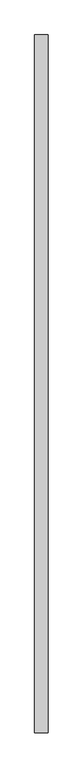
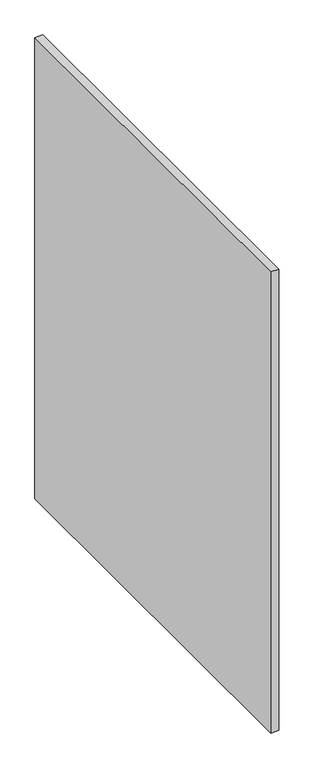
"""IFC4 building model written with IfcOpenShell, lengths in millimetres: furniture geometry, Divisoria_Lateral Fechada : Divisoria_Lateral Fechada_130x180."""

from ifc_helpers import new_model, si_unit, frame, origin, place, context, project, spatial, polyline, outline, extrude, source, transform, mapped, element, save


def furniture_773e04f6(model_context):
    return source(origin(), model_context, "Body", "SweptSolid", [
        extrude(outline(polyline([(59.7003264, -50.0), (29.7003264, -50.0), (29.7003264, 1499.1070406), (59.7003264, 1499.1070406), (59.7003264, -50.0)])), frame((0.0, 0.0, 50.0), z_axis=(0.0, 0.0, 1.0), x_axis=(1.0, 0.0, 0.0)), (0.0, 0.0, 1.0), 1850.0),
    ])


if __name__ == "__main__":
    model = new_model("IFC4")
    model_context = context("Model", 3, world=origin())
    ifc_project = project(units=[si_unit("LENGTHUNIT", "METRE", prefix="MILLI")], contexts=[model_context])
    site = spatial("IfcSite", under=ifc_project)
    building = spatial("IfcBuilding", under=site)
    placement = place(None, origin())
    furniture_shape = furniture_773e04f6(model_context)
    element("IfcFurniture", 1, ObjectType="Divisoria_Lateral Fechada : Divisoria_Lateral Fechada_130x180", at=placement, inside=building, context=model_context, shape_type="MappedRepresentation", body=[
        mapped(furniture_shape, transform((0.0, 0.0, 0.0), x_axis=(1.0, 0.0, 0.0), y_axis=(0.0, 1.0, 0.0), z_axis=(0.0, 0.0, 1.0))),
    ])
    save(model, "model.ifc")
